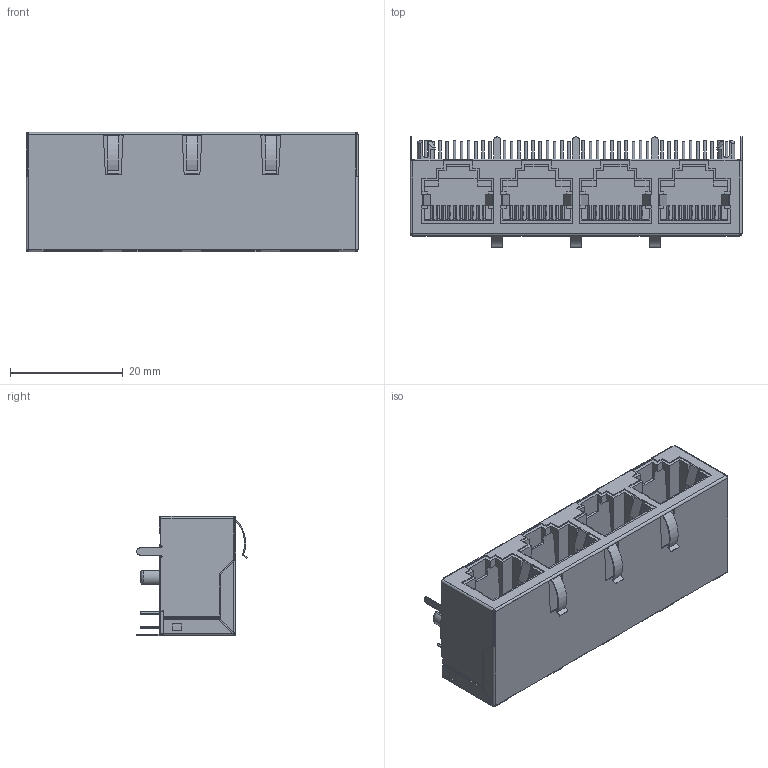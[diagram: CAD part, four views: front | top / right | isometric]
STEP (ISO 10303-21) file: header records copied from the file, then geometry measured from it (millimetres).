
FILE_DESCRIPTION((''),'2;1');
FILE_NAME('DGKYD59211418HWA1DY1022_ASM','2019-10-07T18:34:23',('Administrator'),(''),'CREO PARAMETRIC BY PTC INC, 2018400','CREO PARAMETRIC BY PTC INC, 2018400','');
FILE_SCHEMA(('CONFIG_CONTROL_DESIGN'));
Length unit declared in the file: millimetre
Products named in the file (6): 5921-14-SU; CAXIN; ZEN; XIAN; 14; DGKYD59211418HWA1DY1022_ASM
Assembly tree (86 placements, depth 2):
  DGKYD59211418HWA1DY1022_ASM
    5921-14-SU
    CAXIN  x4
    ZEN  x40
    XIAN  x40
    14
Bounding box: 58.9 x 19.64 x 21.15 mm (x, y, z)
Volume: 9552.3 mm3; surface area: 22523.9 mm2
Topology: 86 solids, 86 shells, 2541 faces, 6415 edges, 3962 vertices
Faces by surface type: plane 1581, cylinder 700, torus 164, cone 82, bspline 14
Entity records: 37077 total; most frequent: CARTESIAN_POINT 7462, ORIENTED_EDGE 6260, DIRECTION 5834, EDGE_CURVE 3130, VECTOR 2638, LINE 2638, VERTEX_POINT 1940, AXIS2_PLACEMENT_3D 1598
